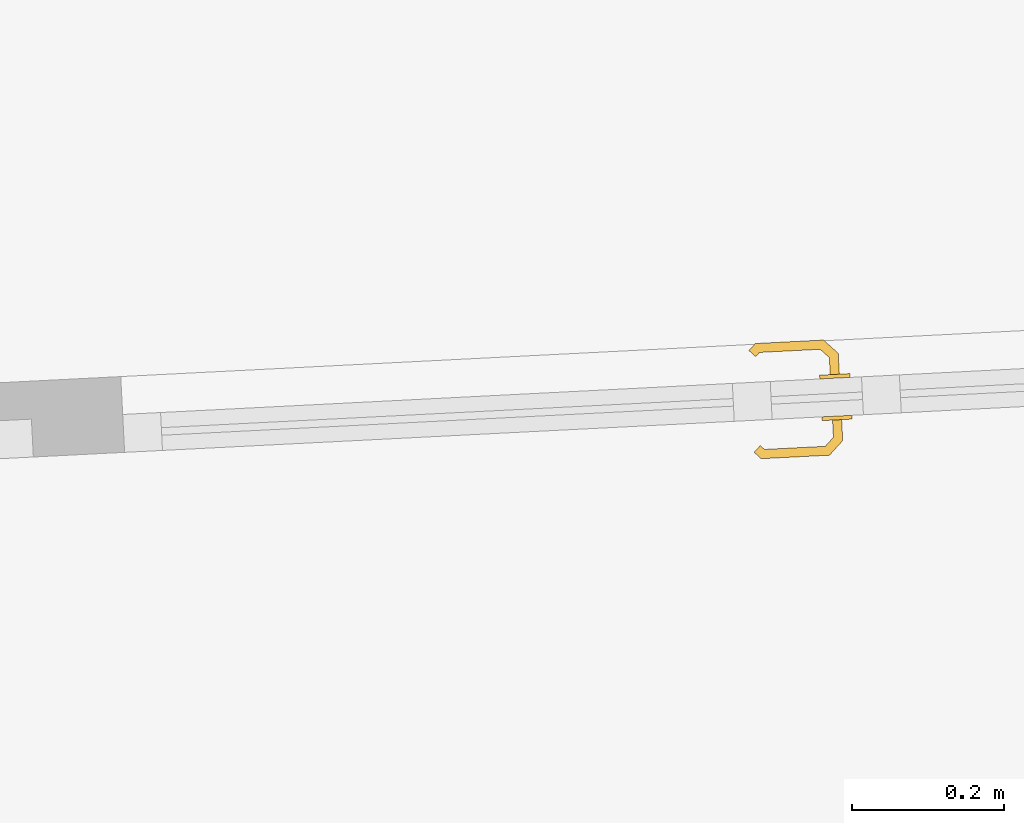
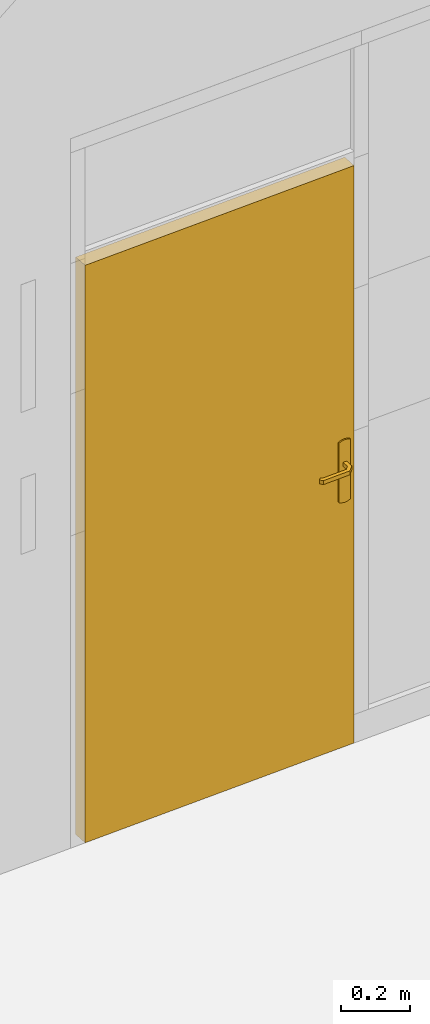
# One storey, part 32 of 43: 1 door, 1 element without a shape of its own.
"""IFC2X3 building model written with IfcOpenShell, lengths in metres."""

from ifc_helpers import new_model, entity, si_unit, converted_unit, derived_unit, direction, frame, origin, place, context, subcontext, project, spatial, faceted_brep, source, transform, mapped, material, material_list, type_object, type_shapes, element, aggregate, save


model = new_model("IFC2X3")

# Units and contexts
model_context = context("Model", 3, precision=1e-05, world=origin(), true_north=direction((6.123233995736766e-17, 1.0)))
body_context = subcontext(model_context, "Body", "Model", "MODEL_VIEW")
ifc_project = project(units=[si_unit("LENGTHUNIT", "METRE"), si_unit("AREAUNIT", "SQUARE_METRE"), converted_unit("PLANEANGLEUNIT", "DEGREE", entity("IfcPlaneAngleMeasure", 0.017453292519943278), si_unit("PLANEANGLEUNIT", "RADIAN"), dimensions=[0, 0, 0, 0, 0, 0, 0]), derived_unit("THERMALTRANSMITTANCEUNIT", [(si_unit("MASSUNIT", "GRAM", prefix="KILO"), 1), (si_unit("THERMODYNAMICTEMPERATUREUNIT", "KELVIN"), -1), (si_unit("TIMEUNIT", "SECOND"), -3)])], contexts=[model_context])

# Site, building, storey
site_placement = place(None, frame((1253.6752467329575, 2072.143113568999, 91.49999999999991), z_axis=(0.0, 0.0, 1.0), x_axis=(0.7237211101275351, 0.6900925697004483, 0.0)))
site = spatial("IfcSite", under=ifc_project, at=site_placement, Name="Surface", CompositionType="ELEMENT")
building_placement = place(site_placement, origin())
building = spatial("IfcBuilding", under=site, at=building_placement, CompositionType="ELEMENT")
storey_placement = place(building_placement, frame((0.0, 0.0, -4.629999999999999)))
storey = spatial("IfcBuildingStorey", under=building, at=storey_placement, Name="rez de rue -1.10m", CompositionType="ELEMENT", Elevation=-4.629999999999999)

# Curtain wall, door
curtain_wall_type = type_object("IfcCurtainWallType", Name="Mur-rideau:Menuiserie Int", PredefinedType="NOTDEFINED")
curtain_wall_placement = place(storey_placement, frame((0.0, 0.0, 4.629999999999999)))
curtain_wall = element("IfcCurtainWall", 1, at=curtain_wall_placement, inside=storey, type_object=curtain_wall_type, Name="Mur-rideau:Menuiserie Int", ObjectType="Mur-rideau:Menuiserie Int")
ifc_material_1 = material(Name="Porte MR - Poignée")
ifc_material_2 = material(Name="Porte MR - Panneau")
ifc_material_list = material_list([ifc_material_1, ifc_material_2])
door_style = type_object("IfcDoorStyle", Name="OMD_1PP:GRZ_simple 2", ConstructionType="NOTDEFINED", OperationType="SINGLE_SWING_RIGHT", ParameterTakesPrecedence=False, Sizeable=False, material=ifc_material_list)
shared_shape = source(origin(), body_context, "Body", "Brep", [
    faceted_brep([(0.3266153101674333, 0.07199578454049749, 0.9922195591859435), (0.31895104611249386, 0.06433152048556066, 0.9922195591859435), (0.31614050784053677, 0.06714205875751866, 0.9929999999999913), (0.32496893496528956, 0.07597048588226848, 0.9929999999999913), (0.32829312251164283, 0.06794518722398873, 0.9922195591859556), (0.3218152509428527, 0.0614673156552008, 0.9922195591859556), (0.4295252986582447, 0.029999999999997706, 0.9922195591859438), (0.425474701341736, 0.029999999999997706, 0.9922195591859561), (0.42547470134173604, 0.05413157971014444, 0.9922195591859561), (0.41166109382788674, 0.06794518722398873, 0.992219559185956), (0.41333890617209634, 0.07199578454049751, 0.9922195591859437), (0.4295252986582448, 0.05580939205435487, 0.9922195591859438), (0.32993949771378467, 0.06397048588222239, 0.9930000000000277), (0.3246257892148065, 0.05865677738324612, 0.9930000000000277), (0.4254747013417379, 0.029999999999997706, 1.007780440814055), (0.42547470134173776, 0.054131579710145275, 1.0077804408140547), (0.42149999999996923, 0.052485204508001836, 1.0069999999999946), (0.42149999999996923, 0.029999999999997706, 1.0069999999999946), (0.42952529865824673, 0.029999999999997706, 1.0077804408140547), (0.4295252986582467, 0.05580939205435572, 1.0077804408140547), (0.41333890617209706, 0.07199578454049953, 1.0077804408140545), (0.41166109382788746, 0.06794518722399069, 1.0077804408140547), (0.32829312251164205, 0.06794518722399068, 1.0077804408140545), (0.3266153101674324, 0.0719957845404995, 1.0077804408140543), (0.31895104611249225, 0.06433152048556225, 1.0077804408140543), (0.32181525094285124, 0.06146731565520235, 1.0077804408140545), (0.4335000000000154, 0.029999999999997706, 1.006999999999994), (0.4335000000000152, 0.05745576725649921, 1.0069999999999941), (0.43350000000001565, 0.05745576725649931, 0.9929999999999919), (0.43350000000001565, 0.029999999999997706, 0.9929999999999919), (0.4100147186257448, 0.06397048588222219, 1.0069999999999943), (0.41498528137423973, 0.07597048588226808, 1.0069999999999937), (0.4149852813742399, 0.07597048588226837, 0.9929999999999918), (0.36997710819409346, 0.07012492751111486, 1.0078781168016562), (0.36997710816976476, 0.06397048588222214, 1.0069999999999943), (0.3648994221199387, 0.07597048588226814, 1.0069999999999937), (0.3249689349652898, 0.07597048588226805, 1.0069999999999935), (0.32993949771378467, 0.06397048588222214, 1.0069999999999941), (0.37505479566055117, 0.07597048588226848, 0.9929999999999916), (0.3246257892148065, 0.05865677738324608, 1.0069999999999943), (0.4214999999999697, 0.029999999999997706, 0.9930000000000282), (0.42149999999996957, 0.052485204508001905, 0.9930000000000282), (0.4100147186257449, 0.06397048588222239, 0.9930000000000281), (0.3699771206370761, 0.06397048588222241, 0.993000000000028), (0.3699771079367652, 0.07012492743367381, 0.992121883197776), (0.3161405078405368, 0.06714205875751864, 1.0069999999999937)], [[[0, 1, 2, 3]], [[0, 4, 5, 1]], [[6, 7, 8, 9, 10, 11]], [[12, 13, 5, 4]], [[14, 15, 16, 17]], [[14, 18, 19, 20, 21, 15]], [[22, 23, 24, 25]], [[26, 27, 19, 18]], [[28, 27, 26, 29]], [[16, 15, 21, 30]], [[27, 31, 20, 19]], [[32, 31, 27, 28]], [[33, 34, 21]], [[35, 36, 23]], [[35, 20, 31]], [[33, 20, 35]], [[22, 34, 33]], [[33, 23, 22]], [[30, 21, 34]], [[34, 22, 37]], [[20, 33, 21]], [[23, 33, 35]], [[31, 32, 38, 3, 36, 35]], [[13, 12, 37, 39]], [[18, 14, 17, 40, 7, 6, 29, 26]], [[41, 40, 17, 16]], [[29, 6, 11, 28]], [[7, 40, 41, 8]], [[42, 41, 16, 30]], [[28, 11, 10, 32]], [[8, 41, 42, 9]], [[30, 34, 37, 12, 43, 42]], [[10, 44, 38]], [[0, 38, 44]], [[38, 32, 10]], [[38, 0, 3]], [[9, 43, 44]], [[44, 10, 9]], [[44, 43, 4]], [[43, 9, 42]], [[12, 4, 43]], [[0, 44, 4]], [[25, 24, 45, 2, 1, 5, 13, 39]], [[37, 22, 25, 39]], [[23, 36, 45, 24]], [[2, 45, 36, 3]]]),
    faceted_brep([(0.43350000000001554, -0.05765095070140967, 1.0069999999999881), (0.43350000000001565, -0.05765095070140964, 0.992999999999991), (0.43350000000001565, -0.030000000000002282, 0.992999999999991), (0.43350000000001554, -0.030000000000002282, 1.0069999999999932), (0.4151227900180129, -0.07602816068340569, 1.006999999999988), (0.41512279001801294, -0.07602816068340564, 0.9929999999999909), (0.3751923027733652, -0.07602816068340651, 1.006999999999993), (0.32499607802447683, -0.07602816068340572, 1.0069999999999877), (0.3249960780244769, -0.07602816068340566, 0.9929999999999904), (0.3649265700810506, -0.07602816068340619, 0.992999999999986), (0.324652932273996, -0.058714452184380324, 0.993000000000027), (0.3246529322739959, -0.05871445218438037, 1.0069999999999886), (0.32996664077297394, -0.0640281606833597, 1.0069999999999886), (0.32996664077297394, -0.0640281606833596, 0.9930000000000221), (0.3283202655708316, -0.06800286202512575, 0.99221955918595), (0.32184239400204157, -0.06152499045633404, 0.99221955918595), (0.3266424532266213, -0.07205345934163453, 0.9922195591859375), (0.3189781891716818, -0.06438919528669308, 0.9922195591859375), (0.4254747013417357, -0.030000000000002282, 0.9922195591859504), (0.4295252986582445, -0.030000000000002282, 0.9922195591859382), (0.4295252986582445, -0.056004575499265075, 0.9922195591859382), (0.4134764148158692, -0.07205345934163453, 0.9922195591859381), (0.4117986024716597, -0.06800286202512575, 0.9922195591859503), (0.42547470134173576, -0.05432676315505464, 0.9922195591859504), (0.3161676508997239, -0.06719973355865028, 0.9929999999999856), (0.4254747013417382, -0.030000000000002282, 1.007780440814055), (0.429525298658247, -0.030000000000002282, 1.0077804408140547), (0.42149999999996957, -0.030000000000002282, 0.9930000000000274), (0.42149999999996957, -0.030000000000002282, 1.0069999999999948), (0.4295252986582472, -0.05600457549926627, 1.0077804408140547), (0.42547470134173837, -0.05432676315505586, 1.007780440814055), (0.4117986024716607, -0.06800286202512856, 1.0077804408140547), (0.4134764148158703, -0.07205345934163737, 1.0077804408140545), (0.32664245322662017, -0.07205345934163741, 1.007780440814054), (0.32832026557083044, -0.06800286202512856, 1.0077804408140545), (0.32184239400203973, -0.061524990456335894, 1.0077804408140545), (0.31897818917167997, -0.06438919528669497, 1.007780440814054), (0.4214999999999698, -0.0526803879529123, 1.0069999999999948), (0.4214999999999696, -0.05268038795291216, 0.9930000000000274), (0.410152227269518, -0.06402816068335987, 1.0069999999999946), (0.410152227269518, -0.06402816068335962, 0.9930000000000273), (0.3700594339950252, -0.07018280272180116, 1.0078781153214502), (0.3700594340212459, -0.0640281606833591, 1.0069999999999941), (0.3700594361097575, -0.06402816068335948, 0.9930000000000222), (0.3700594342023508, -0.07018280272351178, 0.9921218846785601), (0.3161676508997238, -0.0671997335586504, 1.0069999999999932)], [[[0, 1, 2, 3]], [[4, 5, 1, 0]], [[5, 4, 6, 7, 8, 9]], [[10, 11, 12, 13]], [[13, 14, 15, 10]], [[14, 16, 17, 15]], [[18, 19, 20, 21, 22, 23]], [[16, 8, 24, 17]], [[25, 26, 3, 2, 19, 18, 27, 28]], [[3, 26, 29, 0]], [[26, 25, 30, 31, 32, 29]], [[33, 34, 35, 36]], [[25, 28, 37, 30]], [[38, 37, 28, 27]], [[18, 23, 38, 27]], [[2, 1, 20, 19]], [[0, 29, 32, 4]], [[30, 37, 39, 31]], [[40, 39, 37, 38]], [[38, 23, 22, 40]], [[20, 1, 5, 21]], [[32, 41, 6]], [[33, 6, 41]], [[6, 4, 32]], [[6, 33, 7]], [[31, 42, 41]], [[41, 32, 31]], [[41, 42, 34]], [[42, 31, 39]], [[12, 34, 42]], [[33, 41, 34]], [[39, 40, 43, 13, 12, 42]], [[44, 43, 22]], [[9, 8, 16]], [[9, 21, 5]], [[44, 21, 9]], [[14, 43, 44]], [[44, 16, 14]], [[40, 22, 43]], [[43, 14, 13]], [[21, 44, 22]], [[16, 44, 9]], [[10, 15, 17, 24, 45, 36, 35, 11]], [[33, 36, 45, 7]], [[12, 11, 35, 34]], [[45, 24, 8, 7]]]),
    faceted_brep([(0.40749999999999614, 0.02999999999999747, 0.8700000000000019), (0.40749999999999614, 0.02499999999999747, 0.8700000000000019), (0.40749999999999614, 0.02499999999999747, 1.0800000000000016), (0.40749999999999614, 0.02999999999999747, 1.0800000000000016), (0.4274999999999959, 0.024999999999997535, 0.8646410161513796), (0.4378527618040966, 0.024999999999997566, 0.8660039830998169), (0.44749999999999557, 0.0249999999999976, 0.870000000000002), (0.4474999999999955, 0.0249999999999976, 1.0800000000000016), (0.43785276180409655, 0.024999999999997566, 1.0839960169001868), (0.4274999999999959, 0.024999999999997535, 1.085358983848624), (0.41714723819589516, 0.024999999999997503, 1.0839960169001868), (0.41714723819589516, 0.024999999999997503, 0.8660039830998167), (0.44749999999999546, 0.0299999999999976, 1.0800000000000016), (0.44749999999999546, 0.0299999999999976, 0.870000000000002), (0.43785276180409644, 0.029999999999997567, 0.8660039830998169), (0.42749999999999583, 0.029999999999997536, 0.8646410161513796), (0.4171472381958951, 0.029999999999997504, 0.8660039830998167), (0.4171472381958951, 0.029999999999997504, 1.0839960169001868), (0.42749999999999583, 0.029999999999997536, 1.085358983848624), (0.43785276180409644, 0.029999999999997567, 1.0839960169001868)], [[[0, 1, 2, 3]], [[4, 5, 6, 7, 8, 9, 10, 2, 1, 11]], [[12, 13, 14, 15, 16, 0, 3, 17, 18, 19]], [[10, 17, 3, 2]], [[9, 18, 17, 10]], [[8, 19, 18, 9]], [[8, 7, 12, 19]], [[12, 7, 6, 13]], [[5, 14, 13, 6]], [[4, 15, 14, 5]], [[11, 16, 15, 4]], [[11, 1, 0, 16]]]),
    faceted_brep([(0.4274999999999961, -0.030000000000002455, 0.8646410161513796), (0.4378527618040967, -0.030000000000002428, 0.8660039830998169), (0.44749999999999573, -0.030000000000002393, 0.8700000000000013), (0.44749999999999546, -0.030000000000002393, 1.0800000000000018), (0.43785276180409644, -0.030000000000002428, 1.0839960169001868), (0.42749999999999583, -0.030000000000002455, 1.085358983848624), (0.4171472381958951, -0.03000000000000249, 1.0839960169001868), (0.40749999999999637, -0.030000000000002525, 1.0800000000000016), (0.40749999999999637, -0.030000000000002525, 0.8700000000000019), (0.4171472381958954, -0.03000000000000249, 0.8660039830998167), (0.4378527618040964, -0.02500000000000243, 1.0839960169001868), (0.4474999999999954, -0.025000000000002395, 1.0800000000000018), (0.4474999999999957, -0.025000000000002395, 0.870000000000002), (0.43785276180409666, -0.02500000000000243, 0.8660039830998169), (0.427499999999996, -0.02500000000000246, 0.8646410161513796), (0.41714723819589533, -0.025000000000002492, 0.8660039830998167), (0.4074999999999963, -0.025000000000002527, 0.8700000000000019), (0.4074999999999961, -0.025000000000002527, 1.0800000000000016), (0.41714723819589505, -0.025000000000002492, 1.0839960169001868), (0.42749999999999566, -0.02500000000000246, 1.085358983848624)], [[[0, 1, 2, 3, 4, 5, 6, 7, 8, 9]], [[10, 11, 12, 13, 14, 15, 16, 17, 18, 19]], [[1, 13, 12, 2]], [[0, 14, 13, 1]], [[9, 15, 14, 0]], [[9, 8, 16, 15]], [[16, 8, 7, 17]], [[6, 18, 17, 7]], [[5, 19, 18, 6]], [[4, 10, 19, 5]], [[4, 3, 11, 10]], [[11, 3, 2, 12]]]),
    faceted_brep([(0.4624999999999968, -0.025000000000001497, 2.0349999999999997), (-0.4624999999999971, -0.02499999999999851, 2.0349999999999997), (-0.46249999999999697, -0.02499999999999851, 0.0), (0.4624999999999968, -0.025000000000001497, 0.0), (-0.4624999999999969, 0.025000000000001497, 2.0349999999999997), (-0.46249999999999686, 0.025000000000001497, 0.0), (0.4624999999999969, 0.02499999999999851, 0.0), (0.4624999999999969, 0.02499999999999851, 2.0349999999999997)], [[[0, 1, 2, 3]], [[2, 1, 4, 5]], [[3, 2, 5, 6]], [[0, 3, 6, 7]], [[7, 6, 5, 4]], [[1, 0, 7, 4]]]),
])
type_shapes(door_style, [shared_shape])
door_placement = place(curtain_wall_placement, frame((184.0390493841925, 4.877116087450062, -4.629999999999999), z_axis=(0.0, 0.0, 1.0), x_axis=(0.7578888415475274, -0.6523837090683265, 0.0)))
door = element("IfcDoor", 2, at=door_placement, type_object=door_style, material=ifc_material_list, Name="OMD_1PP:GRZ_simple 2", ObjectType="OMD_1PP:GRZ_simple 2", OverallHeight=2.035, OverallWidth=1.0813459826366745, context=body_context, shape_type="MappedRepresentation", body=[
    mapped(shared_shape, transform((0.0, 0.0, 0.0), scale=1.0)),
])
aggregate(curtain_wall, [door])

save(model, "model.ifc")
